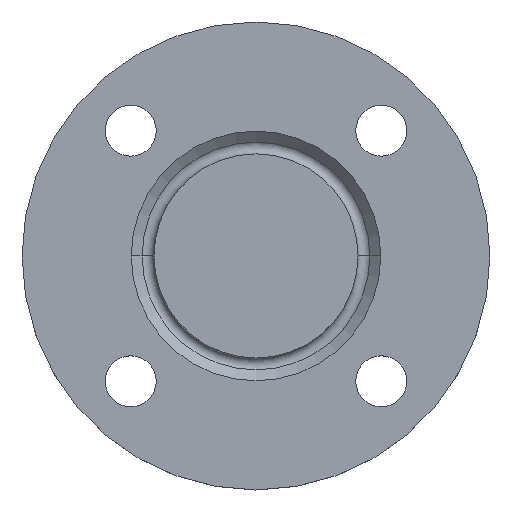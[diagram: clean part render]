
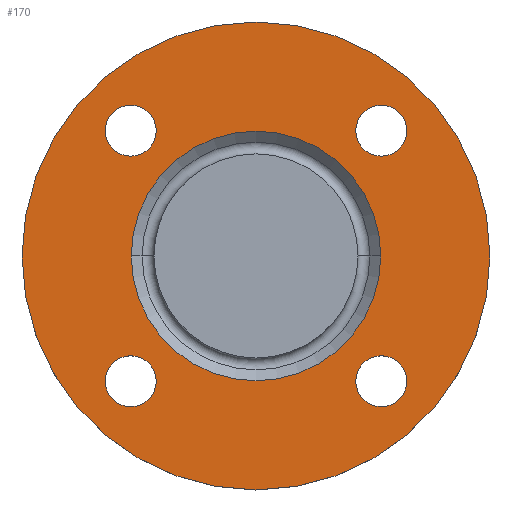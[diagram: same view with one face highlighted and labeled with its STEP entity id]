
A CAD part, top view. The second image highlights one B-rep face of the part: STEP entity #170.
In plain terms, the highlighted planar face has unit normal (0, 0, 1).
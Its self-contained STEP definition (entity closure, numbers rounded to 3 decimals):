
#11 = FACE_BOUND ( 'NONE', #100, .T. ) ;
#25 = AXIS2_PLACEMENT_3D ( 'NONE', #851, #395, #491 ) ;
#28 = EDGE_CURVE ( 'NONE', #80, #798, #835, .T. ) ;
#37 = CIRCLE ( 'NONE', #713, 9. ) ;
#73 = AXIS2_PLACEMENT_3D ( 'NONE', #312, #468, #200 ) ;
#80 = VERTEX_POINT ( 'NONE', #825 ) ;
#88 = DIRECTION ( 'NONE',  ( 0., 0., -1. ) ) ;
#100 = EDGE_LOOP ( 'NONE', ( #286, #635 ) ) ;
#104 = CARTESIAN_POINT ( 'NONE',  ( 35.194, -44.194, -2. ) ) ;
#108 = CARTESIAN_POINT ( 'NONE',  ( -35.194, -44.194, -2. ) ) ;
#109 = CIRCLE ( 'NONE', #465, 9. ) ;
#111 = DIRECTION ( 'NONE',  ( 0., 0., -1. ) ) ;
#124 = VERTEX_POINT ( 'NONE', #316 ) ;
#141 = DIRECTION ( 'NONE',  ( 1., 0., 0. ) ) ;
#142 = VERTEX_POINT ( 'NONE', #104 ) ;
#148 = AXIS2_PLACEMENT_3D ( 'NONE', #769, #500, #684 ) ;
#152 = AXIS2_PLACEMENT_3D ( 'NONE', #668, #516, #725 ) ;
#167 = AXIS2_PLACEMENT_3D ( 'NONE', #199, #750, #817 ) ;
#170 = ADVANCED_FACE ( 'NONE', ( #11, #722, #371, #399, #673, #180 ), #688, .T. ) ;
#173 = DIRECTION ( 'NONE',  ( 0., 0., -1. ) ) ;
#174 = VERTEX_POINT ( 'NONE', #108 ) ;
#180 = FACE_OUTER_BOUND ( 'NONE', #670, .T. ) ;
#188 = EDGE_CURVE ( 'NONE', #798, #80, #609, .T. ) ;
#193 = CIRCLE ( 'NONE', #531, 9. ) ;
#196 = VERTEX_POINT ( 'NONE', #409 ) ;
#199 = CARTESIAN_POINT ( 'NONE',  ( 44.194, -44.194, -2. ) ) ;
#200 = DIRECTION ( 'NONE',  ( 1., 0., 0. ) ) ;
#210 = ORIENTED_EDGE ( 'NONE', *, *, #607, .T. ) ;
#242 = AXIS2_PLACEMENT_3D ( 'NONE', #440, #569, #751 ) ;
#251 = VERTEX_POINT ( 'NONE', #667 ) ;
#256 = CARTESIAN_POINT ( 'NONE',  ( -53.194, 44.194, -2. ) ) ;
#259 = EDGE_LOOP ( 'NONE', ( #601, #374 ) ) ;
#269 = CARTESIAN_POINT ( 'NONE',  ( 44.194, 44.194, -2. ) ) ;
#277 = CARTESIAN_POINT ( 'NONE',  ( 35.194, 44.194, -2. ) ) ;
#279 = AXIS2_PLACEMENT_3D ( 'NONE', #499, #111, #811 ) ;
#285 = CARTESIAN_POINT ( 'NONE',  ( 53.194, -44.194, -2. ) ) ;
#286 = ORIENTED_EDGE ( 'NONE', *, *, #738, .T. ) ;
#302 = VERTEX_POINT ( 'NONE', #285 ) ;
#312 = CARTESIAN_POINT ( 'NONE',  ( 82.5, 0., -2. ) ) ;
#316 = CARTESIAN_POINT ( 'NONE',  ( 53.194, 44.194, -2. ) ) ;
#317 = DIRECTION ( 'NONE',  ( 1., 0., 0. ) ) ;
#322 = CIRCLE ( 'NONE', #554, 82.5 ) ;
#329 = CARTESIAN_POINT ( 'NONE',  ( -44.194, -44.194, -2. ) ) ;
#338 = CARTESIAN_POINT ( 'NONE',  ( -44., 0., -2. ) ) ;
#345 = VERTEX_POINT ( 'NONE', #643 ) ;
#367 = CIRCLE ( 'NONE', #606, 82.5 ) ;
#368 = CARTESIAN_POINT ( 'NONE',  ( 0., 0., -2. ) ) ;
#371 = FACE_BOUND ( 'NONE', #787, .T. ) ;
#374 = ORIENTED_EDGE ( 'NONE', *, *, #789, .T. ) ;
#377 = EDGE_CURVE ( 'NONE', #142, #302, #744, .T. ) ;
#390 = CIRCLE ( 'NONE', #279, 9. ) ;
#391 = CIRCLE ( 'NONE', #25, 9. ) ;
#395 = DIRECTION ( 'NONE',  ( 0., 0., -1. ) ) ;
#399 = FACE_BOUND ( 'NONE', #259, .T. ) ;
#406 = CARTESIAN_POINT ( 'NONE',  ( -44.194, 44.194, -2. ) ) ;
#409 = CARTESIAN_POINT ( 'NONE',  ( -35.194, 44.194, -2. ) ) ;
#423 = CARTESIAN_POINT ( 'NONE',  ( -82.5, 0., -2. ) ) ;
#440 = CARTESIAN_POINT ( 'NONE',  ( 0., 0., -2. ) ) ;
#443 = EDGE_CURVE ( 'NONE', #251, #174, #624, .T. ) ;
#465 = AXIS2_PLACEMENT_3D ( 'NONE', #269, #88, #536 ) ;
#468 = DIRECTION ( 'NONE',  ( 0., 0., 1. ) ) ;
#479 = DIRECTION ( 'NONE',  ( -1., 0., 0. ) ) ;
#486 = ORIENTED_EDGE ( 'NONE', *, *, #804, .F. ) ;
#490 = ORIENTED_EDGE ( 'NONE', *, *, #188, .T. ) ;
#491 = DIRECTION ( 'NONE',  ( 1., 0., 0. ) ) ;
#495 = EDGE_CURVE ( 'NONE', #672, #196, #193, .T. ) ;
#499 = CARTESIAN_POINT ( 'NONE',  ( 44.194, -44.194, -2. ) ) ;
#500 = DIRECTION ( 'NONE',  ( 0., 0., -1. ) ) ;
#516 = DIRECTION ( 'NONE',  ( 0., 0., -1. ) ) ;
#523 = EDGE_LOOP ( 'NONE', ( #210, #540 ) ) ;
#531 = AXIS2_PLACEMENT_3D ( 'NONE', #683, #173, #317 ) ;
#533 = ORIENTED_EDGE ( 'NONE', *, *, #570, .T. ) ;
#536 = DIRECTION ( 'NONE',  ( 1., 0., 0. ) ) ;
#540 = ORIENTED_EDGE ( 'NONE', *, *, #443, .T. ) ;
#552 = VERTEX_POINT ( 'NONE', #277 ) ;
#554 = AXIS2_PLACEMENT_3D ( 'NONE', #368, #762, #479 ) ;
#562 = EDGE_CURVE ( 'NONE', #124, #552, #846, .T. ) ;
#569 = DIRECTION ( 'NONE',  ( 0., 0., -1. ) ) ;
#570 = EDGE_CURVE ( 'NONE', #196, #672, #37, .T. ) ;
#601 = ORIENTED_EDGE ( 'NONE', *, *, #562, .T. ) ;
#606 = AXIS2_PLACEMENT_3D ( 'NONE', #729, #823, #714 ) ;
#607 = EDGE_CURVE ( 'NONE', #174, #251, #391, .T. ) ;
#609 = CIRCLE ( 'NONE', #148, 44. ) ;
#624 = CIRCLE ( 'NONE', #731, 9. ) ;
#634 = ORIENTED_EDGE ( 'NONE', *, *, #28, .T. ) ;
#635 = ORIENTED_EDGE ( 'NONE', *, *, #377, .T. ) ;
#643 = CARTESIAN_POINT ( 'NONE',  ( 82.5, 0., -2. ) ) ;
#646 = ORIENTED_EDGE ( 'NONE', *, *, #783, .F. ) ;
#664 = ORIENTED_EDGE ( 'NONE', *, *, #495, .T. ) ;
#667 = CARTESIAN_POINT ( 'NONE',  ( -53.194, -44.194, -2. ) ) ;
#668 = CARTESIAN_POINT ( 'NONE',  ( 44.194, 44.194, -2. ) ) ;
#670 = EDGE_LOOP ( 'NONE', ( #486, #646 ) ) ;
#672 = VERTEX_POINT ( 'NONE', #256 ) ;
#673 = FACE_BOUND ( 'NONE', #718, .T. ) ;
#683 = CARTESIAN_POINT ( 'NONE',  ( -44.194, 44.194, -2. ) ) ;
#684 = DIRECTION ( 'NONE',  ( -1., 0., 0. ) ) ;
#688 = PLANE ( 'NONE',  #73 ) ;
#711 = DIRECTION ( 'NONE',  ( 0., 0., -1. ) ) ;
#713 = AXIS2_PLACEMENT_3D ( 'NONE', #406, #711, #141 ) ;
#714 = DIRECTION ( 'NONE',  ( -1., 0., 0. ) ) ;
#718 = EDGE_LOOP ( 'NONE', ( #634, #490 ) ) ;
#720 = VERTEX_POINT ( 'NONE', #423 ) ;
#722 = FACE_BOUND ( 'NONE', #523, .T. ) ;
#725 = DIRECTION ( 'NONE',  ( 1., 0., 0. ) ) ;
#729 = CARTESIAN_POINT ( 'NONE',  ( 0., 0., -2. ) ) ;
#731 = AXIS2_PLACEMENT_3D ( 'NONE', #329, #802, #836 ) ;
#738 = EDGE_CURVE ( 'NONE', #302, #142, #390, .T. ) ;
#744 = CIRCLE ( 'NONE', #167, 9. ) ;
#750 = DIRECTION ( 'NONE',  ( 0., 0., -1. ) ) ;
#751 = DIRECTION ( 'NONE',  ( -1., 0., 0. ) ) ;
#762 = DIRECTION ( 'NONE',  ( 0., 0., -1. ) ) ;
#769 = CARTESIAN_POINT ( 'NONE',  ( 0., 0., -2. ) ) ;
#783 = EDGE_CURVE ( 'NONE', #720, #345, #322, .T. ) ;
#787 = EDGE_LOOP ( 'NONE', ( #533, #664 ) ) ;
#789 = EDGE_CURVE ( 'NONE', #552, #124, #109, .T. ) ;
#798 = VERTEX_POINT ( 'NONE', #338 ) ;
#802 = DIRECTION ( 'NONE',  ( 0., 0., -1. ) ) ;
#804 = EDGE_CURVE ( 'NONE', #345, #720, #367, .T. ) ;
#811 = DIRECTION ( 'NONE',  ( 1., 0., 0. ) ) ;
#817 = DIRECTION ( 'NONE',  ( 1., 0., 0. ) ) ;
#823 = DIRECTION ( 'NONE',  ( 0., 0., -1. ) ) ;
#825 = CARTESIAN_POINT ( 'NONE',  ( 44., 0., -2. ) ) ;
#835 = CIRCLE ( 'NONE', #242, 44. ) ;
#836 = DIRECTION ( 'NONE',  ( 1., 0., 0. ) ) ;
#846 = CIRCLE ( 'NONE', #152, 9. ) ;
#851 = CARTESIAN_POINT ( 'NONE',  ( -44.194, -44.194, -2. ) ) ;
